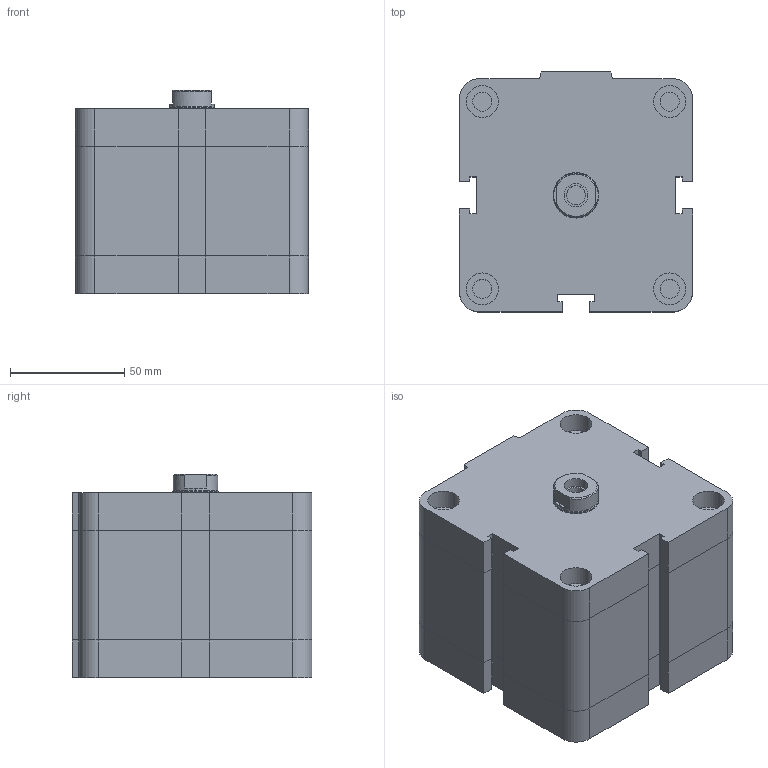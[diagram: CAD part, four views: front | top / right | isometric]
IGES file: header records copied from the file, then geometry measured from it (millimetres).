
Global section: file name: No Iges File Name specified; native system: Autodesk Inventor 2009; preprocessor: AutoDesk Inventor Iges Exporter R2009; author: rivolro1; date: 20081219.155156; units: millimetre
Bounding box: 102 x 105 x 89 mm (x, y, z)
Volume: 803654.4 mm3; surface area: 71948.9 mm2
Topology: 2 solids, 2 shells, 187 faces, 410 edges, 248 vertices
Faces by surface type: plane 112, bspline 39, revolution 16, cylinder 16, cone 4
